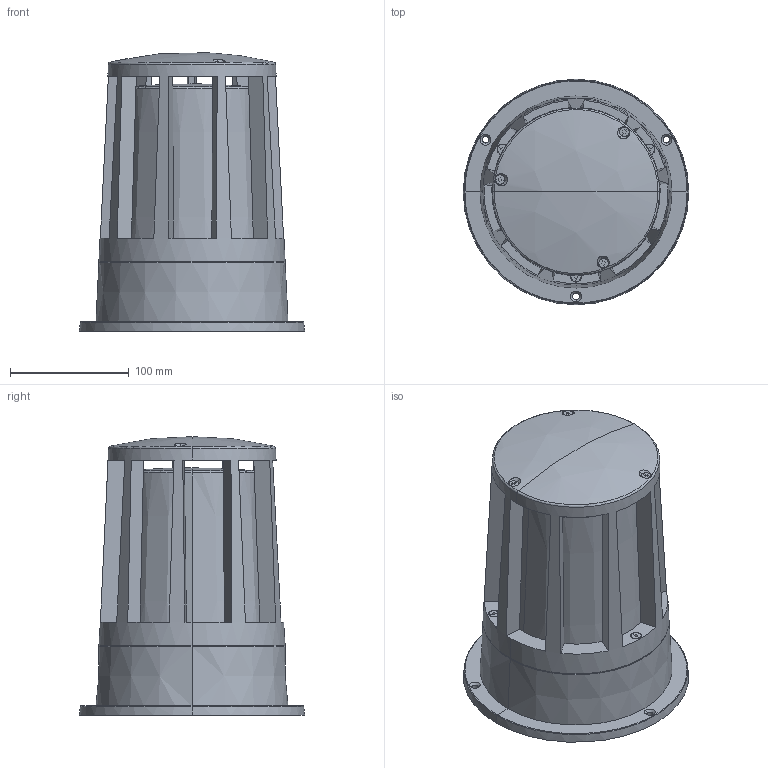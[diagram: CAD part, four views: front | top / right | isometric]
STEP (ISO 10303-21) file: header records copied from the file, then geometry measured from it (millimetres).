
FILE_DESCRIPTION(/* description */ (''),/* implementation_level */ '2;1');
FILE_NAME(/* name */ 'C:\Users\FrancoSartori\Documents\FARO\01_En Proceso\00_SURAT\03_Publicación\72310.stp',/* time_stamp */ '2022-05-31T10:30:46+02:00',/* author */ ('FrancoSartori'),/* organization */ (''),/* preprocessor_version */ 'ST-DEVELOPER v19',/* originating_system */ 'AutoCAD Mechanical',/* authorisation */ '');
FILE_SCHEMA (('AUTOMOTIVE_DESIGN { 1 0 10303 214 3 1 1 }'));
Length unit declared in the file: millimetre
Products named in the file (2): Product; SURAT_ - LAMP-458383-_3D_
Assembly tree (1 placements, depth 2):
  Product
    SURAT_ - LAMP-458383-_3D_
Bounding box: 190 x 190 x 234.7 mm (x, y, z)
Volume: 1323655.3 mm3; surface area: 369370 mm2
Topology: 7 solids, 13 shells, 226 faces, 545 edges, 331 vertices
Faces by surface type: plane 122, cylinder 44, cone 44, torus 8, sphere 8
Entity records: 7464 total; most frequent: CARTESIAN_POINT 2221, DIRECTION 1094, ORIENTED_EDGE 1048, EDGE_CURVE 545, AXIS2_PLACEMENT_3D 410, VERTEX_POINT 331, LINE 274, VECTOR 274
